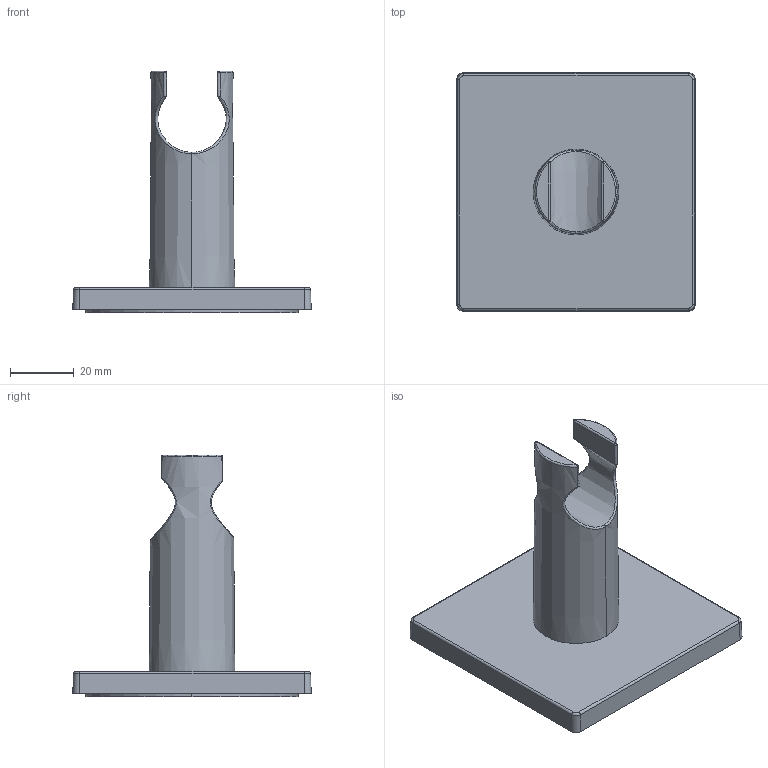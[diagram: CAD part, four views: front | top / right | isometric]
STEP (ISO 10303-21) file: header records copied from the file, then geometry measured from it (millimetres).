
FILE_DESCRIPTION((''),'2;1');
FILE_NAME('26000620','2019-11-05T16:51:32',('BS983'),(''),'CREO PARAMETRIC BY PTC INC, 2018500','CREO PARAMETRIC BY PTC INC, 2018500','');
FILE_SCHEMA(('CONFIG_CONTROL_DESIGN'));
Length unit declared in the file: millimetre
Products named in the file (1): 26000620
Bounding box: 75 x 75 x 76 mm (x, y, z)
Volume: 55536.4 mm3; surface area: 26355.5 mm2
Topology: 1 solids, 3 shells, 53 faces, 114 edges, 67 vertices
Faces by surface type: cylinder 16, plane 14, bspline 12, cone 5, sphere 4, torus 2
Entity records: 2846 total; most frequent: CARTESIAN_POINT 1762, ORIENTED_EDGE 224, DIRECTION 196, EDGE_CURVE 112, AXIS2_PLACEMENT_3D 81, VERTEX_POINT 67, EDGE_LOOP 55, FACE_OUTER_BOUND 53
